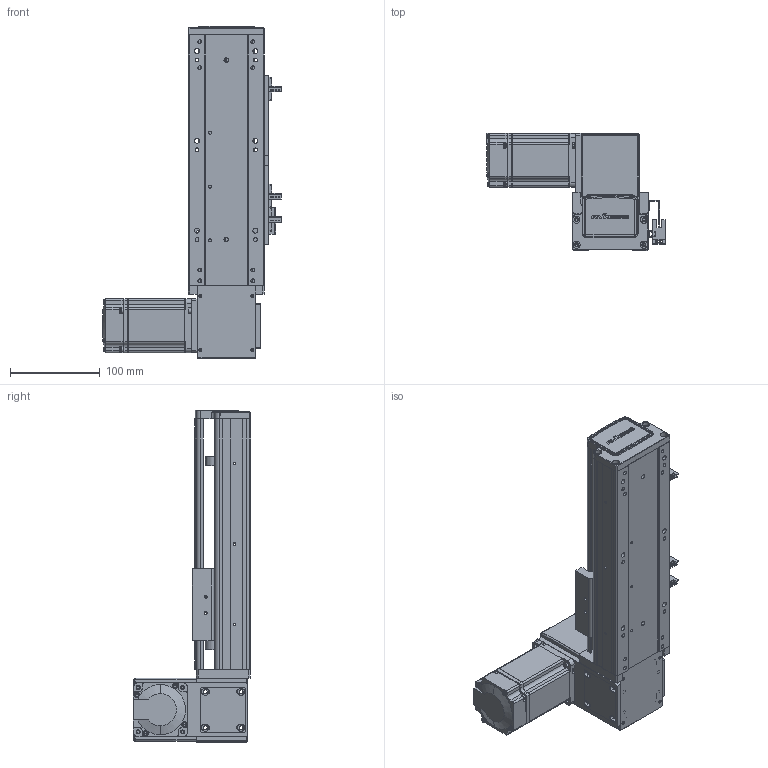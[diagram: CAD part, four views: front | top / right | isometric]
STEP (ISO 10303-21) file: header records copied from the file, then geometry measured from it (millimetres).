
FILE_DESCRIPTION (( 'STEP AP203' ), '1' );
FILE_NAME ('RY80-T-300-UL.SLDASM_100.step', '2021-03-01T02:16:01', ( '盈信电脑' ), ( '东莞市道滘镇水果街19号' ), 'SwSTEP 2.0', 'SolidWorks 2012', '' );
FILE_SCHEMA (( 'CONFIG_CONTROL_DESIGN' ));
Products named in the file (19): RY80-T-300-UL.SLDASM_100; RY80-T-上下折同步轮盖板; RY80-T翋肮祭謫裔啣; RY80-T-M4蹟翐2; RY80-T肮祭謫奻殏俋欶; 1; RY80-T肮祭湍揤輸2; 滅袉蝶18-10; RY80-T萇儂假蚾啣; RY80-T粣創揤踡輸; RY80俋离覜茼え; RY80-T-翋肮祭謫釱; 覜茼ん672; RY80-T肮祭湍揤輸1; RY80-T-300-UL倰第奻裔啣_100; RY80-T綴裔啣; 672嫖萇羲壽假蚾釱; RY80-T肮祭謫臏賑輸; RY80-T-300-UL倰第菁釱_100
Assembly tree (24 placements, depth 2):
  RY80-T-300-UL.SLDASM_100
    RY80-T-300-UL倰第菁釱_100
    RY80-T肮祭謫臏賑輸
    RY80-T-300-UL倰第奻裔啣_100
    RY80-T綴裔啣
    672嫖萇羲壽假蚾釱  x2
    覜茼ん672  x3
    RY80俋离覜茼え
    RY80-T-翋肮祭謫釱
    RY80-T肮祭湍揤輸1
    RY80-T肮祭湍揤輸2
    RY80-T萇儂假蚾啣
    RY80-T粣創揤踡輸  x2
    滅袉蝶18-10  x2
    RY80-T翋肮祭謫裔啣
    1
    RY80-T肮祭謫奻殏俋欶
    RY80-T-M4蹟翐2  x2
    RY80-T-上下折同步轮盖板
Bounding box: 198.7 x 130.5 x 370 mm (x, y, z)
Volume: 1030007.8 mm3; surface area: 392601.9 mm2
Topology: 24 solids, 24 shells, 2334 faces, 6367 edges, 4131 vertices
Faces by surface type: plane 1316, cylinder 818, cone 144, bspline 56
Entity records: 70759 total; most frequent: CARTESIAN_POINT 16022, ORIENTED_EDGE 11118, DIRECTION 10632, EDGE_CURVE 5559, VERTEX_POINT 3652, VECTOR 3604, LINE 3604, AXIS2_PLACEMENT_3D 3514
